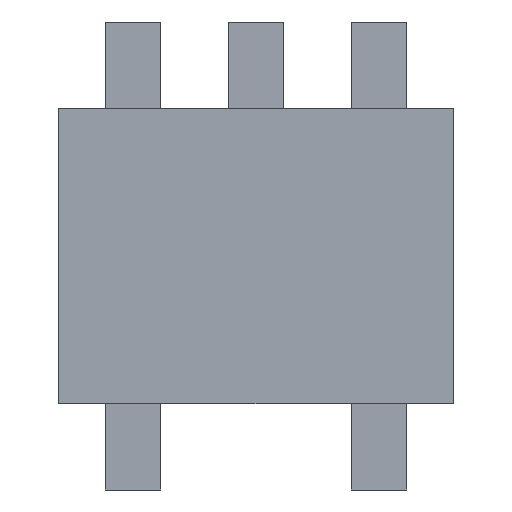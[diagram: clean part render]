
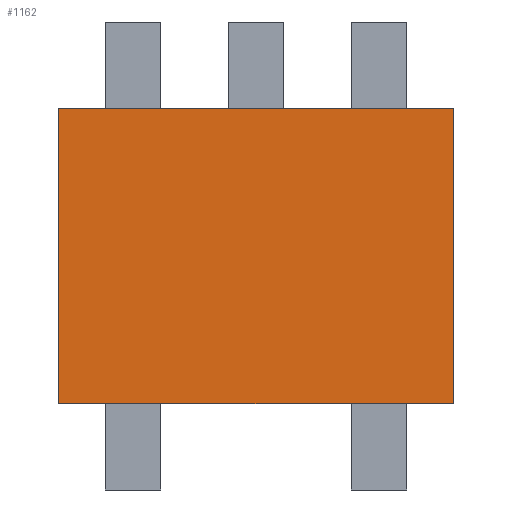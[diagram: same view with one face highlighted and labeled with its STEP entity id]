
A CAD part, front view. The second image highlights one B-rep face of the part: STEP entity #1162.
In plain terms, the highlighted planar face has unit normal (0, -1, 0).
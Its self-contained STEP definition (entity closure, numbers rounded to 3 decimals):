
#979 = CARTESIAN_POINT ( 'NONE',  ( -0.8, 0., 0.6 ) ) ;
#980 = VERTEX_POINT ( 'NONE', #979 ) ;
#995 = CARTESIAN_POINT ( 'NONE',  ( -0.8, 0., -0.6 ) ) ;
#996 = VERTEX_POINT ( 'NONE', #995 ) ;
#1003 = CARTESIAN_POINT ( 'NONE',  ( -0.8, 0., 0.6 ) ) ;
#1004 = DIRECTION ( 'NONE',  ( 0., 0., 1. ) ) ;
#1005 = VECTOR ( 'NONE', #1004, 1000. ) ;
#1006 = LINE ( 'NONE', #1003, #1005 ) ;
#1007 = EDGE_CURVE ( 'NONE', #996, #980, #1006, .T. ) ;
#1019 = CARTESIAN_POINT ( 'NONE',  ( 0.8, 0., 0.6 ) ) ;
#1020 = VERTEX_POINT ( 'NONE', #1019 ) ;
#1034 = CARTESIAN_POINT ( 'NONE',  ( 0.8, 0., 0.6 ) ) ;
#1035 = DIRECTION ( 'NONE',  ( 1., 0., 0. ) ) ;
#1036 = VECTOR ( 'NONE', #1035, 1000. ) ;
#1037 = LINE ( 'NONE', #1034, #1036 ) ;
#1038 = EDGE_CURVE ( 'NONE', #980, #1020, #1037, .T. ) ;
#1050 = CARTESIAN_POINT ( 'NONE',  ( 0.8, 0., -0.6 ) ) ;
#1051 = VERTEX_POINT ( 'NONE', #1050 ) ;
#1065 = CARTESIAN_POINT ( 'NONE',  ( 0.8, 0., 0.6 ) ) ;
#1066 = DIRECTION ( 'NONE',  ( 0., 0., -1. ) ) ;
#1067 = VECTOR ( 'NONE', #1066, 1000. ) ;
#1068 = LINE ( 'NONE', #1065, #1067 ) ;
#1069 = EDGE_CURVE ( 'NONE', #1020, #1051, #1068, .T. ) ;
#1087 = CARTESIAN_POINT ( 'NONE',  ( 0.8, 0., -0.6 ) ) ;
#1088 = DIRECTION ( 'NONE',  ( -1., 0., 0. ) ) ;
#1089 = VECTOR ( 'NONE', #1088, 1000. ) ;
#1090 = LINE ( 'NONE', #1087, #1089 ) ;
#1091 = EDGE_CURVE ( 'NONE', #1051, #996, #1090, .T. ) ;
#1151 = ORIENTED_EDGE ( 'NONE', *, *, #1007, .F. ) ;
#1152 = ORIENTED_EDGE ( 'NONE', *, *, #1091, .F. ) ;
#1153 = ORIENTED_EDGE ( 'NONE', *, *, #1069, .F. ) ;
#1154 = ORIENTED_EDGE ( 'NONE', *, *, #1038, .F. ) ;
#1155 = EDGE_LOOP ( 'NONE', ( #1151, #1152, #1153, #1154 ) ) ;
#1156 = FACE_OUTER_BOUND ( 'NONE', #1155, .T. ) ;
#1157 = CARTESIAN_POINT ( 'NONE',  ( -0.8, 0., -0.6 ) ) ;
#1158 = DIRECTION ( 'NONE',  ( 0., 1., 0. ) ) ;
#1159 = DIRECTION ( 'NONE',  ( 0., 0., 1. ) ) ;
#1160 = AXIS2_PLACEMENT_3D ( 'NONE', #1157, #1158, #1159 ) ;
#1161 = PLANE ( 'NONE', #1160 ) ;
#1162 = ADVANCED_FACE ( 'NONE', ( #1156 ), #1161, .F. ) ;
